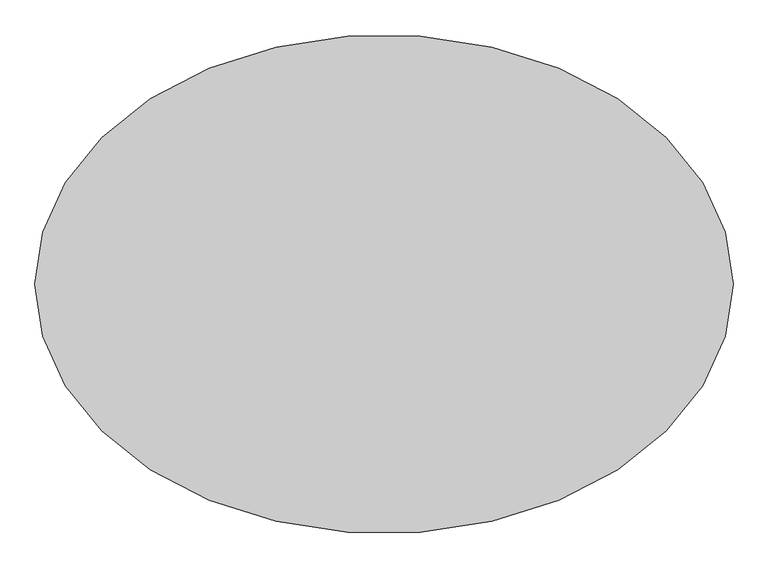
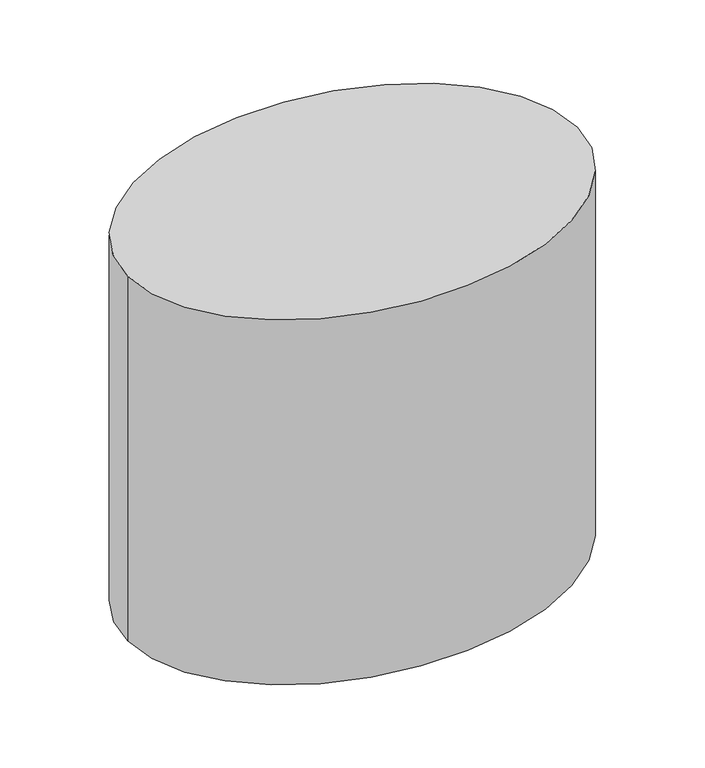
"""IFC4 building model written with IfcOpenShell, lengths in millimetres: column geometry, 교각 기둥 : 교각 기둥."""

from ifc_helpers import new_model, si_unit, point, frame, origin, place, context, project, spatial, ellipse_curve, trimmed, source, transform, mapped, element, save
from ifc_brep_helpers import plane_surface, extruded_surface, advanced_brep


def column_4a8e9384(model_context):
    return source(origin(), model_context, "Body", "AdvancedBrep", [
        advanced_brep(
        [(3500.0, 0.0, 0.0), (-3500.0, 0.0, 0.0), (3500.0, 0.0, 6000.0), (-3500.0, 0.0, 6000.0)],
        [
            (0, 1, ellipse_curve(frame((0.0, 0.0, 0.0), z_axis=(0.0, 0.0, -1.0), x_axis=(-1.0, 0.0, 0.0)), 3500.0, 2500.0)),
            (1, 0, ellipse_curve(frame((0.0, 0.0, 0.0), z_axis=(0.0, 0.0, -1.0), x_axis=(-1.0, 0.0, 0.0)), 3500.0, 2500.0)),
            (2, 3, ellipse_curve(frame((0.0, 0.0, 6000.0), z_axis=(0.0, 0.0, -1.0), x_axis=(-1.0, 0.0, 0.0)), 3500.0, 2500.0)),
            (3, 1),
            (0, 2),
            (3, 2, ellipse_curve(frame((0.0, 0.0, 6000.0), z_axis=(0.0, 0.0, -1.0), x_axis=(-1.0, 0.0, 0.0)), 3500.0, 2500.0)),
        ],
        [
            plane_surface(frame((-3500.0, 0.0, 0.0), z_axis=(0.0, 0.0, -1.0), x_axis=(0.0, 1.0, 0.0))),
            extruded_surface(trimmed(ellipse_curve(frame((0.0, 0.0, -6000.0), z_axis=(0.0, 0.0, 1.0), x_axis=(-1.0, 0.0, 0.0)), 3500.0, 2500.0), [point((-3500.0, 0.0, -6000.0))], [point((3500.0, 0.0, -6000.0))], True, "CARTESIAN"), (0.0, 0.0, 6000.0), 6000.0),
            extruded_surface(trimmed(ellipse_curve(frame((0.0, 0.0, -6000.0), z_axis=(0.0, 0.0, 1.0), x_axis=(-1.0, 0.0, 0.0)), 3500.0, 2500.0), [point((3500.0, 0.0, -6000.0))], [point((-3500.0, 0.0, -6000.0))], True, "CARTESIAN"), (0.0, 0.0, 6000.0), 6000.0),
            plane_surface(frame((-3500.0, 0.0, 6000.0), z_axis=(0.0, 0.0, 1.0), x_axis=(0.0, -1.0, 0.0))),
        ],
        [
            (0, [[1, 2]]),
            (1, [[3, 4, -1, 5]]),
            (2, [[6, -5, -2, -4]]),
            (3, [[-6, -3]]),
        ],
    ),
    ])


if __name__ == "__main__":
    model = new_model("IFC4")
    model_context = context("Model", 3, world=origin())
    ifc_project = project(units=[si_unit("LENGTHUNIT", "METRE", prefix="MILLI")], contexts=[model_context])
    site = spatial("IfcSite", under=ifc_project)
    building = spatial("IfcBuilding", under=site)
    placement = place(None, origin())
    column_shape = column_4a8e9384(model_context)
    element("IfcColumn", 1, ObjectType="교각 기둥 : 교각 기둥", at=placement, inside=building, context=model_context, shape_type="MappedRepresentation", body=[
        mapped(column_shape, transform((0.0, 0.0, 0.0), x_axis=(1.0, 0.0, 0.0), y_axis=(0.0, 1.0, 0.0), z_axis=(0.0, 0.0, 1.0))),
    ])
    save(model, "model.ifc")
